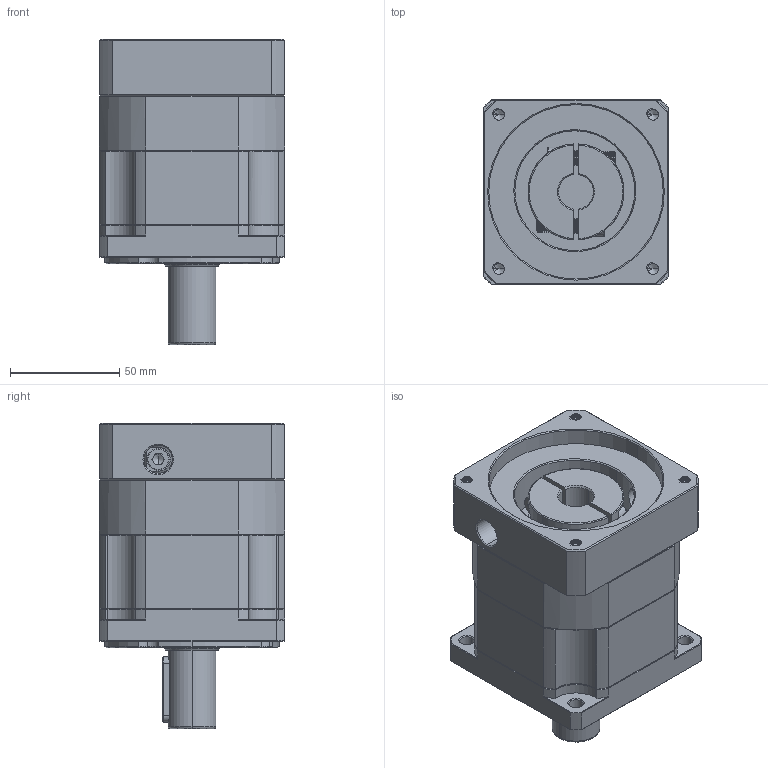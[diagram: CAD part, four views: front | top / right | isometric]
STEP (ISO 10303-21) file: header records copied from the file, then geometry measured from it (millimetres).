
FILE_DESCRIPTION (( 'STEP AP214' ), '1' );
FILE_NAME ('ZB90-D22-L1-16-80-100-M6.STEP', '2022-05-02T15:40:18', ( '' ), ( 'Microsoft' ), 'SwSTEP 2.0', 'SolidWorks 2016', '' );
FILE_SCHEMA (( 'AUTOMOTIVE_DESIGN' ));
Length unit declared in the file: millimetre
Products named in the file (1): ZB90-D22-L1-16-80-100-M6
Bounding box: 85 x 85 x 140 mm (x, y, z)
Volume: 601274.7 mm3; surface area: 86492.7 mm2
Topology: 4 solids, 5 shells, 1941 faces, 5066 edges, 3205 vertices
Faces by surface type: plane 886, cylinder 396, cone 333, bspline 299, torus 27
Entity records: 104706 total; most frequent: CARTESIAN_POINT 38431, ORIENTED_EDGE 10088, DIRECTION 8186, EDGE_CURVE 5044, VERTEX_POINT 3205, VECTOR 3100, LINE 3100, AXIS2_PLACEMENT_3D 2543
